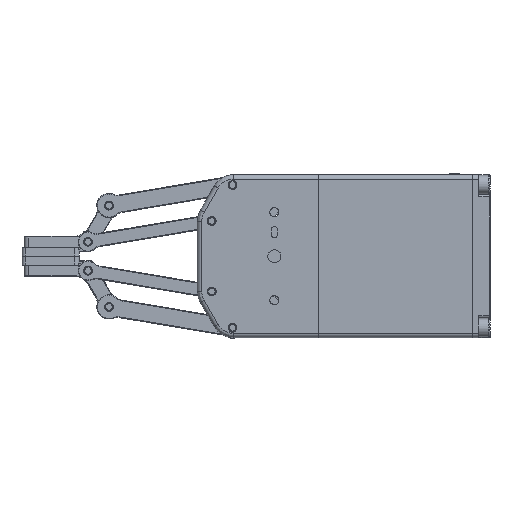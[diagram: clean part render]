
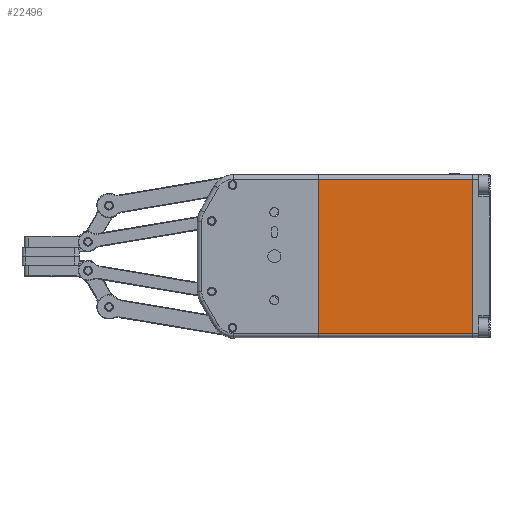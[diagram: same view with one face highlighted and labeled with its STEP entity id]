
A CAD part, front view. The second image highlights one B-rep face of the part: STEP entity #22496.
In plain terms, the highlighted planar face has unit normal (0, -1, 0).
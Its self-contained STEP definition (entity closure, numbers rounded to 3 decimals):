
#338 = CARTESIAN_POINT ( 'NONE',  ( 70., -21., 0. ) ) ;
#1311 = LINE ( 'NONE', #3038, #13524 ) ;
#1771 = CARTESIAN_POINT ( 'NONE',  ( 0., -21., 35. ) ) ;
#2768 = ORIENTED_EDGE ( 'NONE', *, *, #21875, .F. ) ;
#3038 = CARTESIAN_POINT ( 'NONE',  ( 0., -21., 35. ) ) ;
#3168 = DIRECTION ( 'NONE',  ( 0., -1., 0. ) ) ;
#4113 = LINE ( 'NONE', #21845, #12221 ) ;
#4785 = DIRECTION ( 'NONE',  ( 0., 0., -1. ) ) ;
#4950 = AXIS2_PLACEMENT_3D ( 'NONE', #5478, #3168, #10080 ) ;
#5055 = VERTEX_POINT ( 'NONE', #1771 ) ;
#5336 = PLANE ( 'NONE',  #4950 ) ;
#5478 = CARTESIAN_POINT ( 'NONE',  ( 0., -21., 37. ) ) ;
#6060 = EDGE_CURVE ( 'NONE', #15834, #6846, #20081, .T. ) ;
#6846 = VERTEX_POINT ( 'NONE', #7011 ) ;
#6989 = CARTESIAN_POINT ( 'NONE',  ( 0., -21., -35. ) ) ;
#7011 = CARTESIAN_POINT ( 'NONE',  ( 70., -21., -35. ) ) ;
#7349 = DIRECTION ( 'NONE',  ( -1., 0., 0. ) ) ;
#9645 = ORIENTED_EDGE ( 'NONE', *, *, #17928, .T. ) ;
#9877 = CARTESIAN_POINT ( 'NONE',  ( 0., -21., 0. ) ) ;
#10080 = DIRECTION ( 'NONE',  ( 0., 0., -1. ) ) ;
#11816 = VECTOR ( 'NONE', #4785, 1000. ) ;
#12221 = VECTOR ( 'NONE', #26448, 1000. ) ;
#13524 = VECTOR ( 'NONE', #7349, 1000. ) ;
#14705 = EDGE_CURVE ( 'NONE', #6846, #21767, #4113, .T. ) ;
#15068 = CARTESIAN_POINT ( 'NONE',  ( 70., -21., 35. ) ) ;
#15834 = VERTEX_POINT ( 'NONE', #15068 ) ;
#16893 = ORIENTED_EDGE ( 'NONE', *, *, #6060, .F. ) ;
#17928 = EDGE_CURVE ( 'NONE', #15834, #5055, #1311, .T. ) ;
#18680 = DIRECTION ( 'NONE',  ( 0., 0., 1. ) ) ;
#20081 = LINE ( 'NONE', #338, #11816 ) ;
#21463 = ORIENTED_EDGE ( 'NONE', *, *, #14705, .F. ) ;
#21524 = VECTOR ( 'NONE', #18680, 1000. ) ;
#21767 = VERTEX_POINT ( 'NONE', #6989 ) ;
#21845 = CARTESIAN_POINT ( 'NONE',  ( 0., -21., -35. ) ) ;
#21875 = EDGE_CURVE ( 'NONE', #21767, #5055, #25294, .T. ) ;
#21904 = EDGE_LOOP ( 'NONE', ( #21463, #16893, #9645, #2768 ) ) ;
#22496 = ADVANCED_FACE ( 'NONE', ( #27791 ), #5336, .T. ) ;
#25294 = LINE ( 'NONE', #9877, #21524 ) ;
#26448 = DIRECTION ( 'NONE',  ( -1., 0., 0. ) ) ;
#27791 = FACE_OUTER_BOUND ( 'NONE', #21904, .T. ) ;
